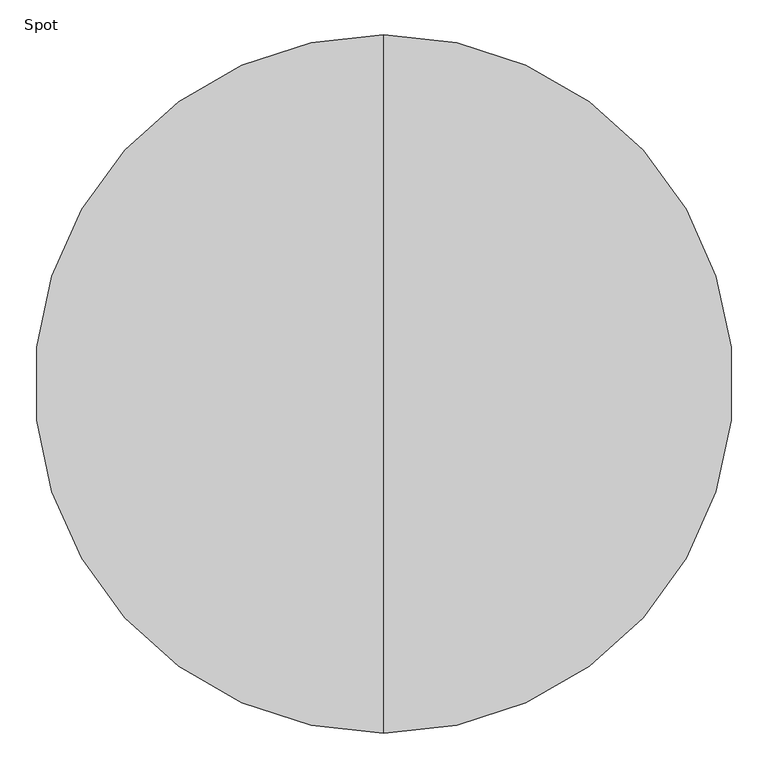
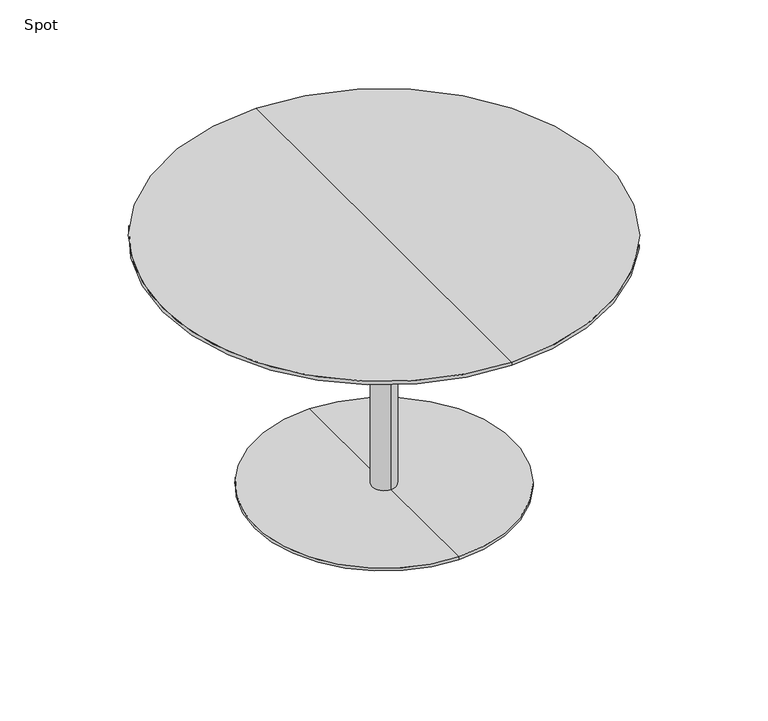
"""IFC4 building model written with IfcOpenShell, lengths in millimetres: furniture geometry, Spot : Bø120x72."""

from ifc_helpers import new_model, si_unit, frame, origin, place, context, project, spatial, polyline, circle_curve, source, transform, mapped, element, save
from ifc_brep_helpers import plane_surface, cylinder_surface, revolved_surface, advanced_brep


def spot_f8e46d7b(model_context):
    return source(origin(), model_context, "Body", "AdvancedBrep", [
        advanced_brep(
        [(0.0, -600.0, 720.0), (0.0, 600.0, 720.0), (0.0, 0.0, 720.0), (0.0, 600.0, 710.25), (0.0, -600.0, 710.25), (0.0, 0.0, 698.0), (0.0, -554.2823776, 698.0), (0.0, 554.2823776, 698.0)],
        [
            (0, 1, circle_curve(frame((0.0, 0.0, 720.0), z_axis=(0.0, 0.0, 1.0), x_axis=(0.0, -1.0, 0.0)), 600.0)),
            (1, 2),
            (2, 0),
            (3, 4, circle_curve(frame((0.0, 0.0, 710.25), z_axis=(0.0, 0.0, 1.0), x_axis=(0.0, -1.0, 0.0)), 600.0)),
            (4, 0),
            (0, 1, circle_curve(frame((0.0, 0.0, 720.0), z_axis=(0.0, 0.0, -1.0), x_axis=(0.0, -1.0, 0.0)), 600.0)),
            (1, 3),
            (5, 6),
            (6, 7, circle_curve(frame((0.0, 0.0, 698.0), z_axis=(0.0, 0.0, -1.0), x_axis=(0.0, -1.0, 0.0)), 554.2823776)),
            (7, 5),
            (7, 6, circle_curve(frame((0.0, 0.0, 698.0), z_axis=(0.0, 0.0, -1.0), x_axis=(0.0, -1.0, 0.0)), 554.2823776)),
            (4, 3, circle_curve(frame((0.0, 0.0, 710.25), z_axis=(0.0, 0.0, 1.0), x_axis=(0.0, -1.0, 0.0)), 600.0)),
            (6, 4),
            (3, 7),
        ],
        [
            plane_surface(frame((0.0, 0.0, 720.0), z_axis=(0.0, 0.0, 1.0), x_axis=(0.0, -1.0, 0.0))),
            cylinder_surface(frame((0.0, 0.0, 800.0), z_axis=(0.0, 0.0, -1.0), x_axis=(0.0, -1.0, 0.0)), 600.0),
            plane_surface(frame((0.0, 0.0, 698.0), z_axis=(0.0, 0.0, -1.0), x_axis=(0.0, -1.0, 0.0))),
            revolved_surface(polyline([(0.0, -600.0, 710.25), (0.0, -554.2823776, 698.0)]), (0.0, 0.0, 800.0), (0.0, 0.0, -1.0)),
        ],
        [
            (0, [[1, 2, 3]]),
            (1, [[4, 5, 6, 7]]),
            (2, [[8, 9, 10]]),
            (2, [[-10, 11, -8]]),
            (0, [[-6, -3, -2]]),
            (1, [[12, -7, -1, -5]]),
            (3, [[-9, 13, -4, 14]]),
            (3, [[-11, -14, -12, -13]]),
        ],
    ),
        advanced_brep(
        [(0.0, 32.0, 10.0), (0.0, -32.0, 10.0), (0.0, -32.0, 667.406916), (0.0, 32.0, 667.406916), (0.0, 350.0, 10.0), (0.0, -350.0, 10.0), (0.0, 350.0, 2.0), (0.0, -350.0, 2.0), (0.0, 0.0, 2.0), (0.0, 150.0, 698.0), (0.0, -150.0, 698.0), (0.0, 0.0, 698.0), (0.0, 150.0, 686.7213673), (0.0, -150.0, 686.7213673)],
        [
            (0, 1, circle_curve(frame((0.0, 0.0, 10.0), z_axis=(0.0, 0.0, 1.0), x_axis=(0.0, -1.0, 0.0)), 32.0)),
            (1, 2),
            (2, 3, circle_curve(frame((0.0, 0.0, 667.406916), z_axis=(0.0, 0.0, -1.0), x_axis=(0.0, -1.0, 0.0)), 32.0)),
            (3, 0),
            (1, 0, circle_curve(frame((0.0, 0.0, 10.0), z_axis=(0.0, 0.0, 1.0), x_axis=(0.0, -1.0, 0.0)), 32.0)),
            (3, 2, circle_curve(frame((0.0, 0.0, 667.406916), z_axis=(0.0, 0.0, -1.0), x_axis=(0.0, -1.0, 0.0)), 32.0)),
            (4, 5, circle_curve(frame((0.0, 0.0, 10.0), z_axis=(0.0, 0.0, 1.0), x_axis=(0.0, -1.0, 0.0)), 350.0)),
            (5, 1),
            (0, 4),
            (5, 4, circle_curve(frame((0.0, 0.0, 10.0), z_axis=(0.0, 0.0, 1.0), x_axis=(0.0, -1.0, 0.0)), 350.0)),
            (6, 7, circle_curve(frame((0.0, 0.0, 2.0), z_axis=(0.0, 0.0, 1.0), x_axis=(0.0, -1.0, 0.0)), 350.0)),
            (7, 5),
            (4, 6),
            (7, 6, circle_curve(frame((0.0, 0.0, 2.0), z_axis=(0.0, 0.0, 1.0), x_axis=(0.0, -1.0, 0.0)), 350.0)),
            (8, 7),
            (6, 8),
            (9, 10, circle_curve(frame((0.0, 0.0, 698.0), z_axis=(0.0, 0.0, 1.0), x_axis=(0.0, -1.0, 0.0)), 150.0)),
            (10, 11),
            (11, 9),
            (10, 9, circle_curve(frame((0.0, 0.0, 698.0), z_axis=(0.0, 0.0, 1.0), x_axis=(0.0, -1.0, 0.0)), 150.0)),
            (12, 13, circle_curve(frame((0.0, 0.0, 686.7213673), z_axis=(0.0, 0.0, 1.0), x_axis=(0.0, -1.0, 0.0)), 150.0)),
            (13, 10),
            (9, 12),
            (13, 12, circle_curve(frame((0.0, 0.0, 686.7213673), z_axis=(0.0, 0.0, 1.0), x_axis=(0.0, -1.0, 0.0)), 150.0)),
            (2, 13),
            (12, 3),
        ],
        [
            cylinder_surface(frame((0.0, 0.0, 1060.0), z_axis=(0.0, 0.0, -1.0), x_axis=(0.0, -1.0, 0.0)), 32.0),
            plane_surface(frame((0.0, 0.0, 10.0), z_axis=(0.0, 0.0, 1.0), x_axis=(0.0, -1.0, 0.0))),
            cylinder_surface(frame((0.0, 0.0, 1060.0), z_axis=(0.0, 0.0, -1.0), x_axis=(0.0, -1.0, 0.0)), 350.0),
            plane_surface(frame((0.0, 0.0, 2.0), z_axis=(0.0, 0.0, -1.0), x_axis=(0.0, -1.0, 0.0))),
            plane_surface(frame((0.0, 0.0, 698.0), z_axis=(0.0, 0.0, 1.0), x_axis=(0.0, -1.0, 0.0))),
            cylinder_surface(frame((0.0, 0.0, 1060.0), z_axis=(0.0, 0.0, -1.0), x_axis=(0.0, -1.0, 0.0)), 150.0),
            revolved_surface(polyline([(0.0, -150.0, 686.7213673), (0.0, -32.0, 667.406916)]), (0.0, 0.0, 1060.0), (0.0, 0.0, -1.0)),
        ],
        [
            (0, [[1, 2, 3, 4]]),
            (0, [[5, -4, 6, -2]]),
            (1, [[7, 8, -1, 9]]),
            (1, [[10, -9, -5, -8]]),
            (2, [[11, 12, -7, 13]]),
            (2, [[14, -13, -10, -12]]),
            (3, [[15, -11, 16]]),
            (3, [[-16, -14, -15]]),
            (4, [[17, 18, 19]]),
            (4, [[20, -19, -18]]),
            (5, [[21, 22, -17, 23]]),
            (5, [[24, -23, -20, -22]]),
            (6, [[-3, 25, -21, 26]]),
            (6, [[-6, -26, -24, -25]]),
        ],
    ),
    ])


if __name__ == "__main__":
    model = new_model("IFC4")
    model_context = context("Model", 3, world=origin())
    ifc_project = project(units=[si_unit("LENGTHUNIT", "METRE", prefix="MILLI")], contexts=[model_context])
    site = spatial("IfcSite", under=ifc_project)
    building = spatial("IfcBuilding", under=site)
    placement = place(None, origin())
    spot_shape = spot_f8e46d7b(model_context)
    element("IfcFurniture", 1, ObjectType="Spot : Bø120x72", at=placement, inside=building, context=model_context, shape_type="MappedRepresentation", body=[
        mapped(spot_shape, transform((0.0, 0.0, 0.0), x_axis=(1.0, 0.0, 0.0), y_axis=(0.0, 1.0, 0.0), z_axis=(0.0, 0.0, 1.0))),
    ])
    save(model, "model.ifc")
